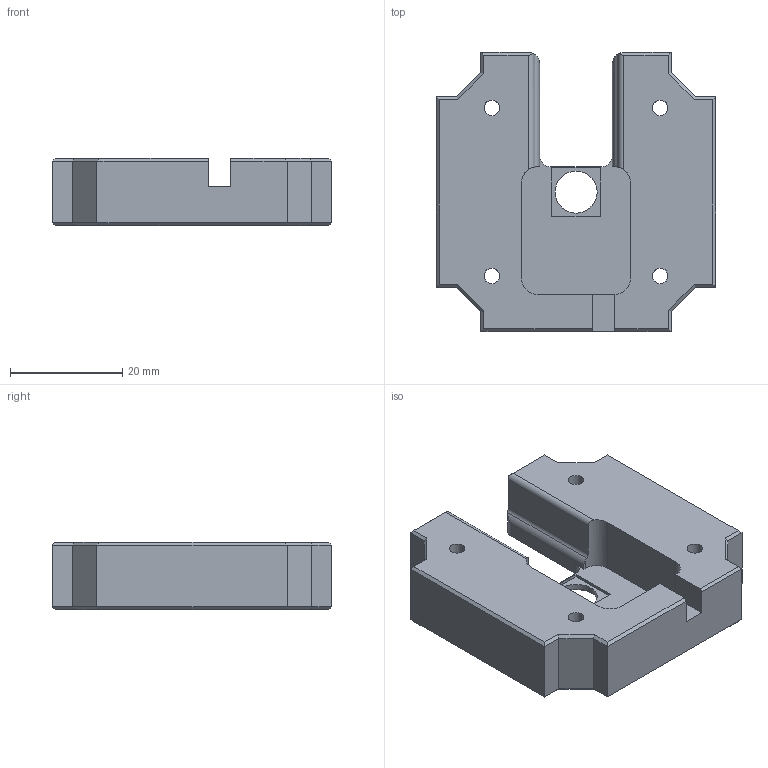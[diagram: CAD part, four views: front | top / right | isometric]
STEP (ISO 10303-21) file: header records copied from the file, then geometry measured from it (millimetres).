
FILE_DESCRIPTION(/* description */ (''),/* implementation_level */ '2;1');
FILE_NAME(/* name */ 'C:\Users\diederichbenedict\Dropbox\Dokumente\Promotion\PROJECTS\openUC2-CAD\INVENTOR\20_Cube_Insert_SEEED_Xiao_Sense_Camera.stp',/* time_stamp */ '2023-09-08T14:05:59+02:00',/* author */ ('diederichbenedict'),/* organization */ (''),/* preprocessor_version */ 'ST-DEVELOPER v18.1',/* originating_system */ 'Autodesk Inventor 2022',/* authorisation */ '');
FILE_SCHEMA (('AUTOMOTIVE_DESIGN { 1 0 10303 214 3 1 1 }'));
Length unit declared in the file: millimetre
Products named in the file (1): 20_Cube_Insert_SEEED_Xiao_Sense_Camera
Bounding box: 49.8 x 49.8 x 12 mm (x, y, z)
Volume: 18747.5 mm3; surface area: 7462.9 mm2
Topology: 1 solids, 1 shells, 94 faces, 240 edges, 149 vertices
Faces by surface type: plane 74, cylinder 19, cone 1
Full cylindrical faces by diameter (mm): 2.8 x4, 7.5 x1
Entity records: 2883 total; most frequent: CARTESIAN_POINT 550, ORIENTED_EDGE 480, DIRECTION 456, EDGE_CURVE 240, LINE 194, VECTOR 194, VERTEX_POINT 149, AXIS2_PLACEMENT_3D 131
